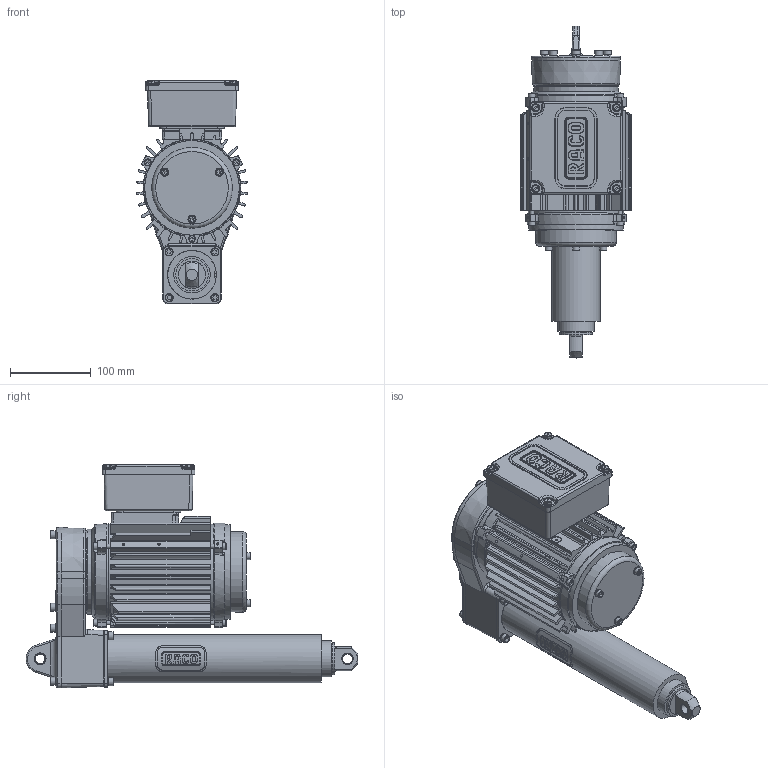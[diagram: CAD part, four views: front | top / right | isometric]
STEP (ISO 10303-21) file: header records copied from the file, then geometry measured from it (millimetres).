
FILE_DESCRIPTION( ( '153-599-4' ), '1' );
FILE_NAME( 'C:/daten/bearbeitung katalogbilder/RBs rendern/austausch pomplun/mit identnr/T6C4-0200-160-263-2.stp', 'Unknown', ( 'Christoph Hahmann' ), ( 'RACO-ELEKTRO-MASCHINEN GmbH' ), 'PSStep 17.0.49', 'Solid Edge ST 7', ' ' );
FILE_SCHEMA( ( 'AUTOMOTIVE_DESIGN { 1 0 10303 214 1 1 1 1 }' ) );
Length unit declared in the file: millimetre
Products named in the file (8): Assem1; Gehäuse W komp; 12.02-04 6 152-968-4; 02.14-04-0200 6; 01.15-04-0200 6; 01.01-04 6 150-123-2; 144-630-4 ohne GZ; Klemmenkasten neue Ausf MOTOR
Assembly tree (7 placements, depth 2):
  Assem1
    Gehäuse W komp
    12.02-04 6 152-968-4
    02.14-04-0200 6
    01.15-04-0200 6
    01.01-04 6 150-123-2
    144-630-4 ohne GZ
    Klemmenkasten neue Ausf MOTOR
Bounding box: 136.56 x 410.48 x 276.75 mm (x, y, z)
Surface area: 628753.6 mm2 (no closed solid volume)
Topology: 0 solids, 3331 shells, 3331 faces, 15055 edges, 14491 vertices
Faces by surface type: plane 1267, cylinder 1142, torus 330, cone 259, bspline 229, sphere 104
Full cylindrical faces by diameter (mm): 2.459 x12, 3 x2, 3.141 x4, 3.242 x19, 4 x8, 4.02 x4, 4.1 x4, 4.134 x22, 4.773 x4, 4.917 x8, 5 x26, 5.3 x7, 5.5 x4, 5.7 x3, 5.8 x6, 6 x14, 6.15 x1, 6.5 x5, 7 x18, 7.33 x1, 8 x1, 8.5 x9, 9.15 x3, 10 x17, 11.4 x1, 12 x6, 14 x4, 14.376 x1, 18.376 x2, 20.1 x1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
Entity records: 219827 total; most frequent: CARTESIAN_POINT 80271, DIRECTION 25262, VERTEX_POINT 14283, ORIENTED_EDGE 14244, EDGE_CURVE 14244, AXIS2_PLACEMENT_3D 9450, LINE 6362, VECTOR 6362
